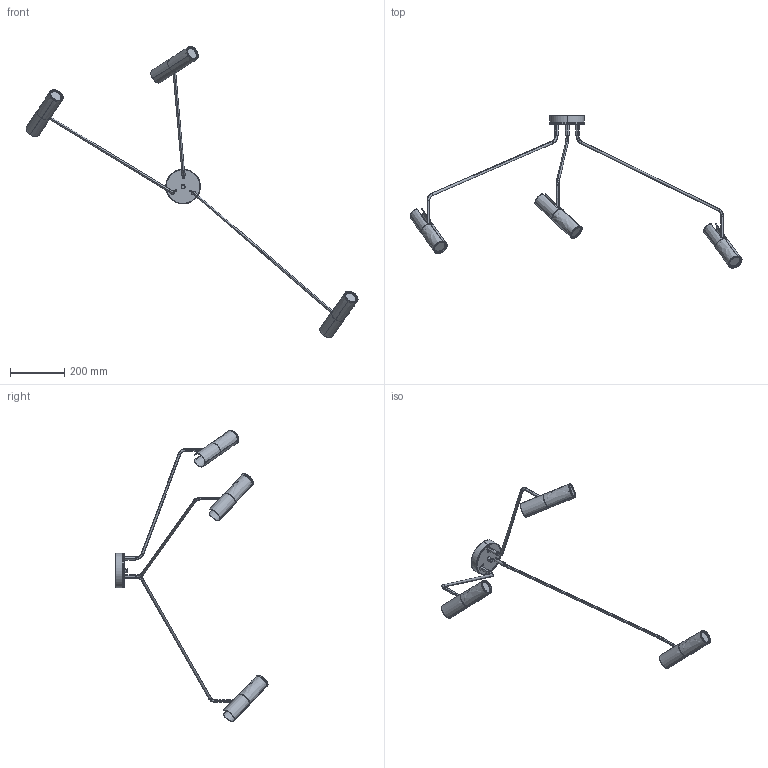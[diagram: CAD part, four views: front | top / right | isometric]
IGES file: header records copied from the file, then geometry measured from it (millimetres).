
Start section: SolidWorks IGES file using analytic representation for surfaces
Global section: file name: Z:\Modele 3D_WWW\_KOLEKCJE_WWW\EYE-SUPER\EYE-SUPER-6491-6497-6504\EYE-SUPER-6491-6497-6504.IGS; native system: SolidWorks 2020; preprocessor: SolidWorks 2020; author: gabriela.tworek; date: 210317.134443; units: millimetre
Bounding box: 1219.65 x 558.54 x 1069.96 mm (x, y, z)
Surface area: 426686.8 mm2 (no closed solid volume)
Topology: 0 solids, 0 shells, 407 faces, 7062 edges, 7062 vertices
Faces by surface type: bspline 266, revolution 141
